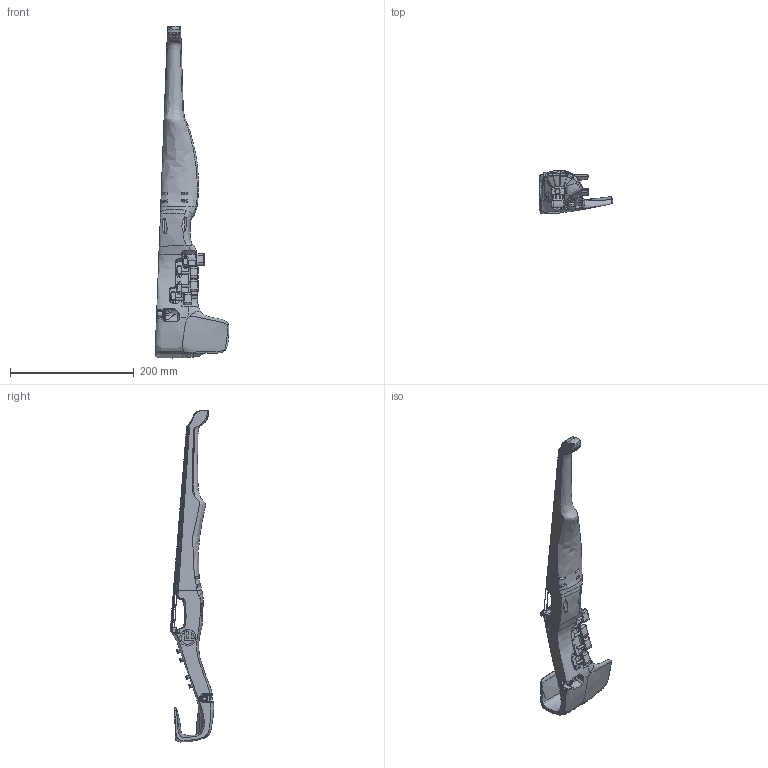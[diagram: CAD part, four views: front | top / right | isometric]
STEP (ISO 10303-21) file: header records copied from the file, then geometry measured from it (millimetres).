
FILE_DESCRIPTION (( 'STEP AP214' ), '1' );
FILE_NAME ('F-F-Fiddle_R7.stp', '2014-04-02T18:53:46', ( '' ), ( '' ), 'SwSTEP 2.0', 'SolidWorks 2013', '' );
FILE_SCHEMA (( 'AUTOMOTIVE_DESIGN' ));
Length unit declared in the file: millimetre
Products named in the file (11): F-F-Fiddle_R7; SHCS_8-32x1__McMaster__92196A199 v1; 5_16x357mm_Rod; Plug_Female; Nut_8-32__McMaster__91841A009 v1; SHCS_8-32x1-5__McMaster__92196A203 v1; Machine_Head__Gotoh_Stealth v3 (1) (1); Machine_Head__Gotoh_Stealth v3; KK_TwinSpot_Pickup; PrintedParts; F-F-Fiddle-R5 v46
Assembly tree (18 placements, depth 2):
  F-F-Fiddle_R7
    F-F-Fiddle-R5 v46
    PrintedParts
    KK_TwinSpot_Pickup  x2
    Machine_Head__Gotoh_Stealth v3  x2
    Machine_Head__Gotoh_Stealth v3 (1) (1)  x2
    SHCS_8-32x1-5__McMaster__92196A203 v1  x2
    Nut_8-32__McMaster__91841A009 v1  x4
    Plug_Female
    5_16x357mm_Rod
    SHCS_8-32x1__McMaster__92196A199 v1  x2
Bounding box: 119.59 x 70.76 x 536.57 mm (x, y, z)
Volume: 34601.4 mm3; surface area: 151915 mm2
Topology: 24 solids, 27 shells, 1504 faces, 3893 edges, 2471 vertices
Faces by surface type: cylinder 775, plane 351, bspline 193, cone 177, torus 8
Entity records: 77070 total; most frequent: CARTESIAN_POINT 51087, ORIENTED_EDGE 4906, DIRECTION 3340, EDGE_CURVE 2455, VERTEX_POINT 1580, AXIS2_PLACEMENT_3D 1194, EDGE_LOOP 1029, VECTOR 952
